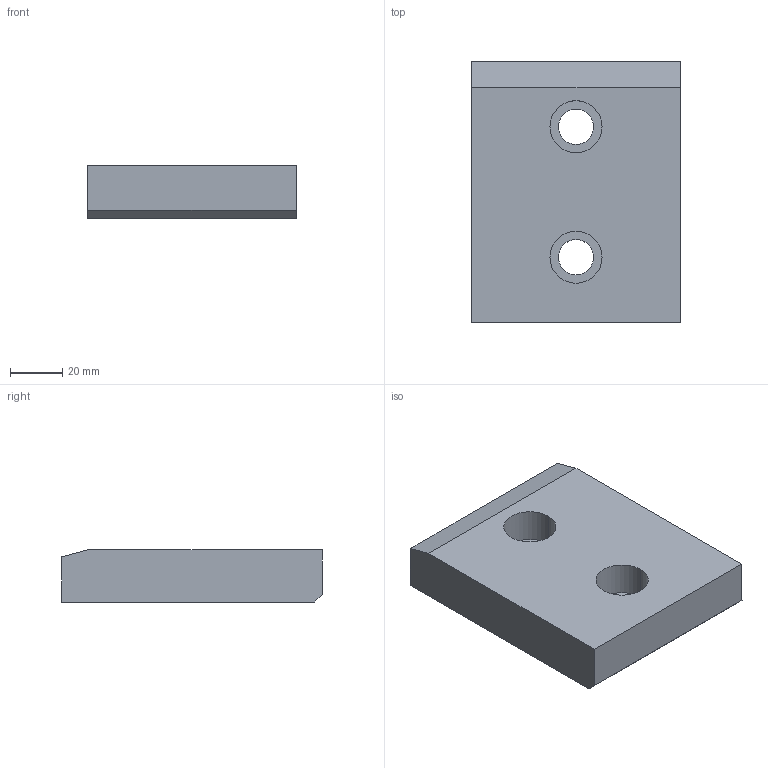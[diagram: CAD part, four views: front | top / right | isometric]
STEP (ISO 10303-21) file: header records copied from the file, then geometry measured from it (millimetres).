
FILE_DESCRIPTION (( 'STEP AP214' ), '1' );
FILE_NAME ('SW225-01-80x100.STEP', '2020-10-21T10:01:05', ( 'August' ), ( '' ), 'SwSTEP 2.0', 'SolidWorks 2018', '' );
FILE_SCHEMA (( 'AUTOMOTIVE_DESIGN' ));
Length unit declared in the file: millimetre
Products named in the file (1): SW225-01-80x100
Bounding box: 80 x 100 x 20 mm (x, y, z)
Volume: 148396.1 mm3; surface area: 24492.3 mm2
Topology: 1 solids, 1 shells, 18 faces, 42 edges, 28 vertices
Faces by surface type: plane 10, cylinder 8
Entity records: 564 total; most frequent: DIRECTION 96, CARTESIAN_POINT 89, ORIENTED_EDGE 84, EDGE_CURVE 42, AXIS2_PLACEMENT_3D 35, VERTEX_POINT 28, LINE 26, VECTOR 26
